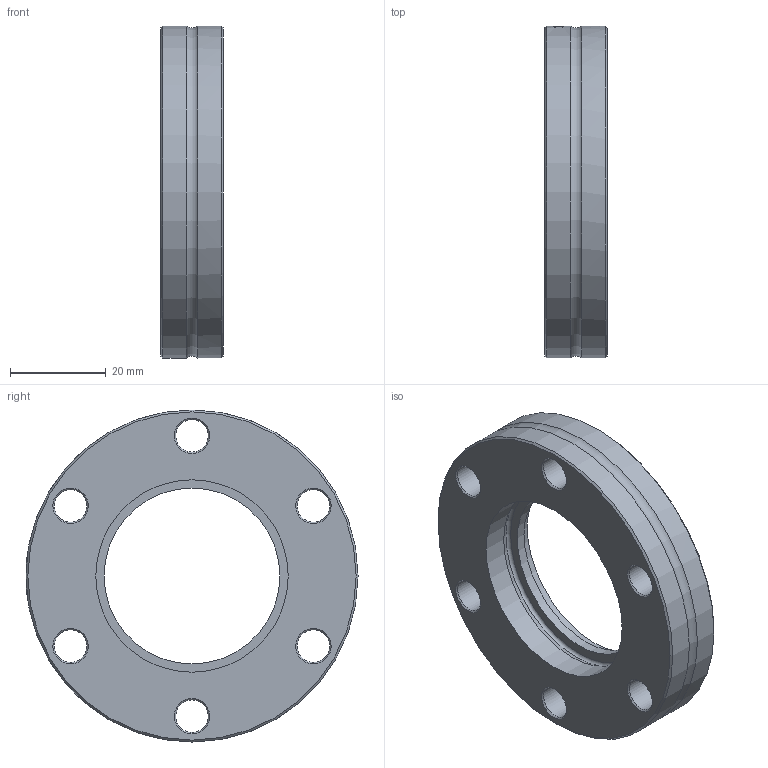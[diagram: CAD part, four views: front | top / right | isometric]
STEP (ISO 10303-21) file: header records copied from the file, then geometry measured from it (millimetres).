
FILE_DESCRIPTION((''),'2;1');
FILE_NAME('W:\13785_CF_Global_Fit_Umsetzung\037_Welding_Flange\M213-122.stp','2010-09-01T10:22:04',('KAA'),(''),'Autodesk Inventor 2011','Autodesk Inventor 2011','');
FILE_SCHEMA(('AUTOMOTIVE_DESIGN { 1 0 10303 214 1 1 1 1 }'));
Length unit declared in the file: millimetre
Products named in the file (1): 213-122
Bounding box: 13 x 69.5 x 69.5 mm (x, y, z)
Volume: 29448 mm3; surface area: 11236.9 mm2
Topology: 1 solids, 1 shells, 131 faces, 342 edges, 223 vertices
Faces by surface type: plane 51, bspline 35, cylinder 21, cone 19, torus 5
Full cylindrical faces by diameter (mm): 6.8 x6, 36.8 x1, 39.5 x1, 40.3 x1, 69.5 x2
Entity records: 12957 total; most frequent: CARTESIAN_POINT 10149, ORIENTED_EDGE 596, DIRECTION 444, EDGE_CURVE 298, VERTEX_POINT 213, EDGE_LOOP 189, AXIS2_PLACEMENT_3D 168, FACE_OUTER_BOUND 131
